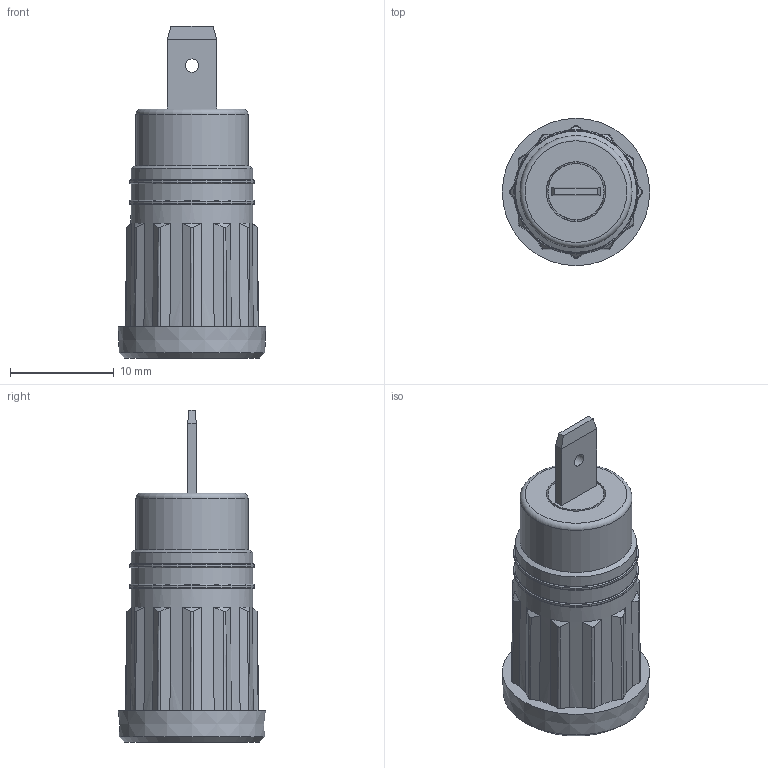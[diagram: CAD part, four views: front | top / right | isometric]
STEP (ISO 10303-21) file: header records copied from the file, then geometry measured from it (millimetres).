
FILE_DESCRIPTION (( 'STEP AP214' ), '1' );
FILE_NAME ('CT2915-.STEP', '2017-10-11T19:30:04', ( '' ), ( '' ), 'SwSTEP 2.0', 'SolidWorks 2014', '' );
FILE_SCHEMA (( 'AUTOMOTIVE_DESIGN' ));
Length unit declared in the file: millimetre
Products named in the file (3): CT2915-; 440-310_440-310-02; 440-3xx_440-309
Assembly tree (2 placements, depth 2):
  CT2915-
    440-310_440-310-02
    440-3xx_440-309
Bounding box: 14.21 x 14.21 x 32 mm (x, y, z)
Volume: 1790.7 mm3; surface area: 3143.1 mm2
Topology: 2 solids, 2 shells, 221 faces, 541 edges, 351 vertices
Faces by surface type: plane 153, cone 42, bspline 12, torus 8, cylinder 6
Full cylindrical faces by diameter (mm): 1.27 x1, 4.1 x1, 5.4 x1, 10.8 x1, 12 x2
Entity records: 6540 total; most frequent: CARTESIAN_POINT 1472, ORIENTED_EDGE 1014, DIRECTION 984, EDGE_CURVE 507, AXIS2_PLACEMENT_3D 359, VERTEX_POINT 343, EDGE_LOOP 278, LINE 266
